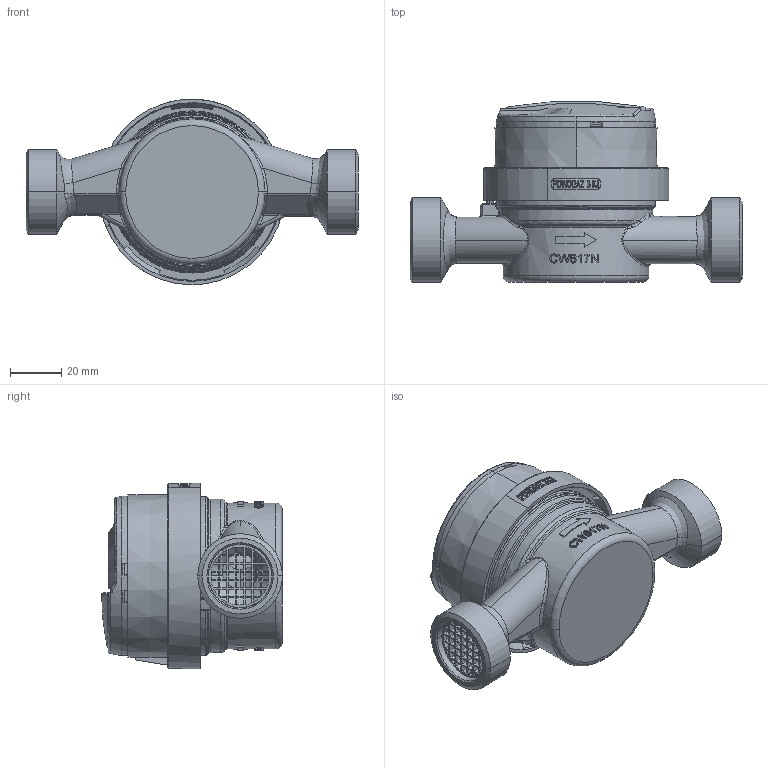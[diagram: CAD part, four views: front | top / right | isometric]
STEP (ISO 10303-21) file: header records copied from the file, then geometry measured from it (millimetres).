
FILE_DESCRIPTION (( 'STEP AP214' ), '1' );
FILE_NAME ('JS90-4-02.STEP', '2025-06-06T07:10:49', ( '' ), ( '' ), 'SwSTEP 2.0', 'SolidWorks 2019', '' );
FILE_SCHEMA (( 'AUTOMOTIVE_DESIGN' ));
Length unit declared in the file: millimetre
Products named in the file (1): JS90-4-02
Bounding box: 130 x 70.83 x 72.69 mm (x, y, z)
Volume: 214172 mm3; surface area: 53784 mm2
Topology: 5 solids, 9 shells, 1088 faces, 2916 edges, 1876 vertices
Faces by surface type: plane 553, cylinder 212, bspline 186, cone 85, torus 42, sphere 10
Entity records: 53734 total; most frequent: CARTESIAN_POINT 15905, ORIENTED_EDGE 5808, DIRECTION 4807, EDGE_CURVE 2904, VERTEX_POINT 1876, AXIS2_PLACEMENT_3D 1627, LINE 1553, VECTOR 1553
